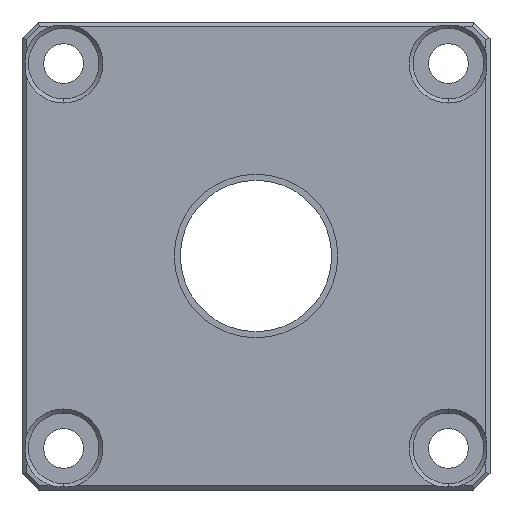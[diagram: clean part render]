
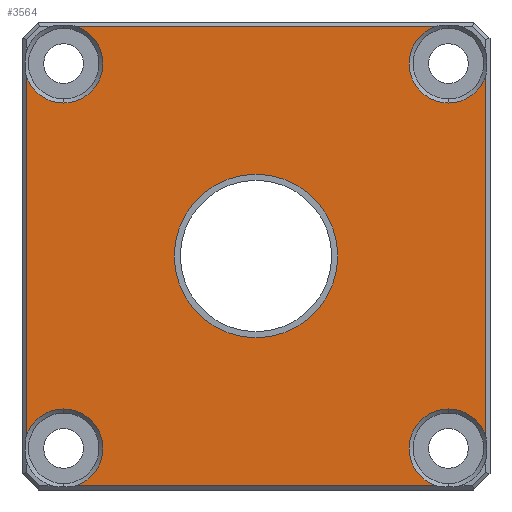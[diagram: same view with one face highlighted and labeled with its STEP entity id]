
A CAD part, front view. The second image highlights one B-rep face of the part: STEP entity #3564.
In plain terms, the highlighted planar face has unit normal (0, -1, 0).
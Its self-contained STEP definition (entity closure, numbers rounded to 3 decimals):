
#10 = PLANE ( 'NONE',  #2391 ) ;
#17 = DIRECTION ( 'NONE',  ( 0., 0., 1. ) ) ;
#37 = VERTEX_POINT ( 'NONE', #2337 ) ;
#55 = DIRECTION ( 'NONE',  ( -1., 0., 0. ) ) ;
#58 = AXIS2_PLACEMENT_3D ( 'NONE', #2759, #3363, #2747 ) ;
#111 = ORIENTED_EDGE ( 'NONE', *, *, #3616, .T. ) ;
#189 = CARTESIAN_POINT ( 'NONE',  ( 30., 0., -23.865 ) ) ;
#192 = DIRECTION ( 'NONE',  ( 0., 0., -1. ) ) ;
#193 = CARTESIAN_POINT ( 'NONE',  ( 30., 0., -30. ) ) ;
#194 = ORIENTED_EDGE ( 'NONE', *, *, #1859, .T. ) ;
#245 = EDGE_CURVE ( 'NONE', #1470, #277, #3491, .T. ) ;
#268 = VECTOR ( 'NONE', #3514, 1000. ) ;
#277 = VERTEX_POINT ( 'NONE', #189 ) ;
#289 = EDGE_LOOP ( 'NONE', ( #2520, #2728 ) ) ;
#296 = ORIENTED_EDGE ( 'NONE', *, *, #1459, .T. ) ;
#362 = CIRCLE ( 'NONE', #58, 6.135 ) ;
#390 = EDGE_CURVE ( 'NONE', #1314, #1290, #1084, .T. ) ;
#427 = ORIENTED_EDGE ( 'NONE', *, *, #1485, .T. ) ;
#441 = LINE ( 'NONE', #1578, #268 ) ;
#485 = DIRECTION ( 'NONE',  ( 0., -1., 0. ) ) ;
#518 = DIRECTION ( 'NONE',  ( 0., 1., 0. ) ) ;
#543 = DIRECTION ( 'NONE',  ( 0., 0., -1. ) ) ;
#550 = VERTEX_POINT ( 'NONE', #3134 ) ;
#600 = DIRECTION ( 'NONE',  ( 0., -1., 0. ) ) ;
#627 = VECTOR ( 'NONE', #17, 1000. ) ;
#654 = EDGE_CURVE ( 'NONE', #1290, #1314, #3055, .T. ) ;
#772 = CARTESIAN_POINT ( 'NONE',  ( 30., 0., 23.865 ) ) ;
#809 = AXIS2_PLACEMENT_3D ( 'NONE', #3346, #3447, #3437 ) ;
#832 = DIRECTION ( 'NONE',  ( 0., 1., 0. ) ) ;
#954 = CARTESIAN_POINT ( 'NONE',  ( -30., 0., -30. ) ) ;
#962 = ORIENTED_EDGE ( 'NONE', *, *, #3030, .T. ) ;
#980 = DIRECTION ( 'NONE',  ( 0., 0., -1. ) ) ;
#1015 = DIRECTION ( 'NONE',  ( 0., 0., -1. ) ) ;
#1026 = CARTESIAN_POINT ( 'NONE',  ( 0., 0., 0. ) ) ;
#1062 = AXIS2_PLACEMENT_3D ( 'NONE', #954, #1177, #980 ) ;
#1080 = CARTESIAN_POINT ( 'NONE',  ( -35.865, 0., -34. ) ) ;
#1084 = CIRCLE ( 'NONE', #3006, 12.75 ) ;
#1159 = CARTESIAN_POINT ( 'NONE',  ( -30., 0., 30. ) ) ;
#1177 = DIRECTION ( 'NONE',  ( 0., 1., 0. ) ) ;
#1214 = AXIS2_PLACEMENT_3D ( 'NONE', #1767, #2827, #1958 ) ;
#1233 = CARTESIAN_POINT ( 'NONE',  ( 0., 0., 12.75 ) ) ;
#1276 = DIRECTION ( 'NONE',  ( 0., 0., -1. ) ) ;
#1290 = VERTEX_POINT ( 'NONE', #1233 ) ;
#1302 = CARTESIAN_POINT ( 'NONE',  ( -30., 0., 30. ) ) ;
#1314 = VERTEX_POINT ( 'NONE', #2401 ) ;
#1316 = AXIS2_PLACEMENT_3D ( 'NONE', #1302, #3374, #2780 ) ;
#1321 = VERTEX_POINT ( 'NONE', #1884 ) ;
#1439 = DIRECTION ( 'NONE',  ( 0., 0., -1. ) ) ;
#1459 = EDGE_CURVE ( 'NONE', #3058, #1470, #441, .T. ) ;
#1462 = LINE ( 'NONE', #1080, #2026 ) ;
#1470 = VERTEX_POINT ( 'NONE', #2828 ) ;
#1485 = EDGE_CURVE ( 'NONE', #1618, #3341, #1685, .T. ) ;
#1551 = ORIENTED_EDGE ( 'NONE', *, *, #2791, .T. ) ;
#1578 = CARTESIAN_POINT ( 'NONE',  ( 34., 0., -35.865 ) ) ;
#1586 = VERTEX_POINT ( 'NONE', #3273 ) ;
#1591 = ORIENTED_EDGE ( 'NONE', *, *, #3339, .T. ) ;
#1613 = CARTESIAN_POINT ( 'NONE',  ( 30., 0., 30. ) ) ;
#1618 = VERTEX_POINT ( 'NONE', #3720 ) ;
#1685 = LINE ( 'NONE', #2599, #3051 ) ;
#1767 = CARTESIAN_POINT ( 'NONE',  ( 0., 0., 0. ) ) ;
#1809 = CARTESIAN_POINT ( 'NONE',  ( 0., 0., 0. ) ) ;
#1816 = EDGE_CURVE ( 'NONE', #3341, #2858, #2770, .T. ) ;
#1859 = EDGE_CURVE ( 'NONE', #2858, #1586, #3015, .T. ) ;
#1884 = CARTESIAN_POINT ( 'NONE',  ( 35.865, 0., -28.2 ) ) ;
#1905 = CIRCLE ( 'NONE', #3370, 6.135 ) ;
#1926 = EDGE_CURVE ( 'NONE', #277, #1321, #2693, .T. ) ;
#1956 = DIRECTION ( 'NONE',  ( 0., 0., -1. ) ) ;
#1957 = ORIENTED_EDGE ( 'NONE', *, *, #245, .T. ) ;
#1958 = DIRECTION ( 'NONE',  ( 0., 0., -1. ) ) ;
#1961 = ORIENTED_EDGE ( 'NONE', *, *, #1926, .T. ) ;
#2026 = VECTOR ( 'NONE', #1956, 1000. ) ;
#2031 = ORIENTED_EDGE ( 'NONE', *, *, #3077, .T. ) ;
#2144 = CIRCLE ( 'NONE', #809, 6.135 ) ;
#2168 = CARTESIAN_POINT ( 'NONE',  ( -28.2, 0., 35.865 ) ) ;
#2315 = EDGE_CURVE ( 'NONE', #2882, #1618, #1905, .T. ) ;
#2324 = AXIS2_PLACEMENT_3D ( 'NONE', #2633, #832, #2931 ) ;
#2337 = CARTESIAN_POINT ( 'NONE',  ( -35.865, 0., -28.2 ) ) ;
#2391 = AXIS2_PLACEMENT_3D ( 'NONE', #1809, #600, #1015 ) ;
#2401 = CARTESIAN_POINT ( 'NONE',  ( 0., 0., -12.75 ) ) ;
#2520 = ORIENTED_EDGE ( 'NONE', *, *, #390, .F. ) ;
#2597 = DIRECTION ( 'NONE',  ( 0., 1., 0. ) ) ;
#2599 = CARTESIAN_POINT ( 'NONE',  ( -34., 0., 35.865 ) ) ;
#2633 = CARTESIAN_POINT ( 'NONE',  ( 30., 0., -30. ) ) ;
#2654 = AXIS2_PLACEMENT_3D ( 'NONE', #1159, #3512, #543 ) ;
#2693 = CIRCLE ( 'NONE', #2980, 6.135 ) ;
#2715 = CARTESIAN_POINT ( 'NONE',  ( 35.865, 0., 34. ) ) ;
#2728 = ORIENTED_EDGE ( 'NONE', *, *, #654, .F. ) ;
#2747 = DIRECTION ( 'NONE',  ( 0., 0., -1. ) ) ;
#2759 = CARTESIAN_POINT ( 'NONE',  ( 30., 0., 30. ) ) ;
#2770 = CIRCLE ( 'NONE', #1316, 6.135 ) ;
#2780 = DIRECTION ( 'NONE',  ( 0., 0., -1. ) ) ;
#2791 = EDGE_CURVE ( 'NONE', #1586, #37, #1462, .T. ) ;
#2827 = DIRECTION ( 'NONE',  ( 0., -1., 0. ) ) ;
#2828 = CARTESIAN_POINT ( 'NONE',  ( 28.2, 0., -35.865 ) ) ;
#2858 = VERTEX_POINT ( 'NONE', #3649 ) ;
#2863 = CIRCLE ( 'NONE', #1062, 6.135 ) ;
#2882 = VERTEX_POINT ( 'NONE', #772 ) ;
#2931 = DIRECTION ( 'NONE',  ( 0., 0., -1. ) ) ;
#2958 = FACE_OUTER_BOUND ( 'NONE', #3526, .T. ) ;
#2980 = AXIS2_PLACEMENT_3D ( 'NONE', #193, #2597, #1276 ) ;
#3006 = AXIS2_PLACEMENT_3D ( 'NONE', #1026, #485, #192 ) ;
#3012 = ORIENTED_EDGE ( 'NONE', *, *, #2315, .T. ) ;
#3015 = CIRCLE ( 'NONE', #2654, 6.135 ) ;
#3030 = EDGE_CURVE ( 'NONE', #1321, #550, #3203, .T. ) ;
#3051 = VECTOR ( 'NONE', #55, 1000. ) ;
#3055 = CIRCLE ( 'NONE', #1214, 12.75 ) ;
#3058 = VERTEX_POINT ( 'NONE', #3259 ) ;
#3077 = EDGE_CURVE ( 'NONE', #37, #3265, #2144, .T. ) ;
#3134 = CARTESIAN_POINT ( 'NONE',  ( 35.865, 0., 28.2 ) ) ;
#3203 = LINE ( 'NONE', #2715, #627 ) ;
#3258 = ORIENTED_EDGE ( 'NONE', *, *, #1816, .T. ) ;
#3259 = CARTESIAN_POINT ( 'NONE',  ( -28.2, 0., -35.865 ) ) ;
#3265 = VERTEX_POINT ( 'NONE', #3300 ) ;
#3273 = CARTESIAN_POINT ( 'NONE',  ( -35.865, 0., 28.2 ) ) ;
#3276 = FACE_BOUND ( 'NONE', #289, .T. ) ;
#3300 = CARTESIAN_POINT ( 'NONE',  ( -30., 0., -23.865 ) ) ;
#3339 = EDGE_CURVE ( 'NONE', #550, #2882, #362, .T. ) ;
#3341 = VERTEX_POINT ( 'NONE', #2168 ) ;
#3346 = CARTESIAN_POINT ( 'NONE',  ( -30., 0., -30. ) ) ;
#3363 = DIRECTION ( 'NONE',  ( 0., 1., 0. ) ) ;
#3370 = AXIS2_PLACEMENT_3D ( 'NONE', #1613, #518, #1439 ) ;
#3374 = DIRECTION ( 'NONE',  ( 0., 1., 0. ) ) ;
#3437 = DIRECTION ( 'NONE',  ( 0., 0., -1. ) ) ;
#3447 = DIRECTION ( 'NONE',  ( 0., 1., 0. ) ) ;
#3491 = CIRCLE ( 'NONE', #2324, 6.135 ) ;
#3512 = DIRECTION ( 'NONE',  ( 0., 1., 0. ) ) ;
#3514 = DIRECTION ( 'NONE',  ( 1., 0., 0. ) ) ;
#3526 = EDGE_LOOP ( 'NONE', ( #1957, #1961, #962, #1591, #3012, #427, #3258, #194, #1551, #2031, #111, #296 ) ) ;
#3564 = ADVANCED_FACE ( 'NONE', ( #2958, #3276 ), #10, .T. ) ;
#3616 = EDGE_CURVE ( 'NONE', #3265, #3058, #2863, .T. ) ;
#3649 = CARTESIAN_POINT ( 'NONE',  ( -30., 0., 23.865 ) ) ;
#3720 = CARTESIAN_POINT ( 'NONE',  ( 28.2, 0., 35.865 ) ) ;
